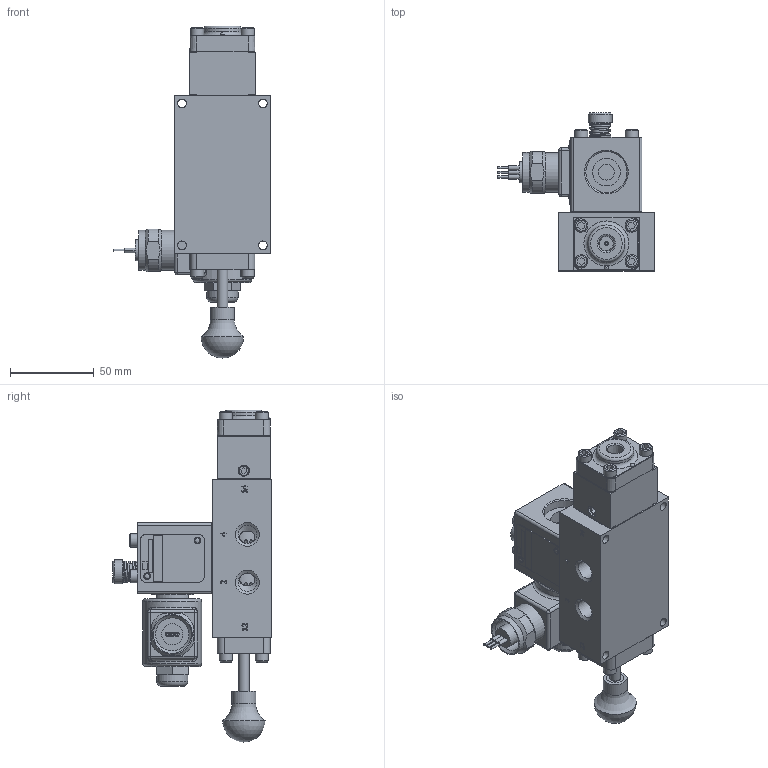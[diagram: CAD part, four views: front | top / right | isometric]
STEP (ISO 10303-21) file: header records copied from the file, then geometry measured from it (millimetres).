
FILE_DESCRIPTION(/* description */ (''),/* implementation_level */ '2;1');
FILE_NAME(/* name */ 'SR2MOLOSQ.stp',/* time_stamp */ '2025-03-03T15:50:27-05:00',/* author */ ('rmckenna'),/* organization */ (''),/* preprocessor_version */ 'ST-DEVELOPER v20',/* originating_system */ 'Autodesk Inventor 2024',/* authorisation */ '');
FILE_SCHEMA (('AUTOMOTIVE_DESIGN { 1 0 10303 214 3 1 1 }'));
Products named in the file (1): Part34
Bounding box: 93.56 x 94.76 x 198.73 mm (x, y, z)
Volume: 358122.8 mm3; surface area: 105369.6 mm2
Topology: 2 solids, 38 shells, 1657 faces, 3969 edges, 2535 vertices
Faces by surface type: plane 764, cylinder 334, cone 300, bspline 139, torus 112, sphere 8
Full cylindrical faces by diameter (mm): 1.016 x1, 1.346 x3, 2.07 x2, 2.261 x2, 2.35 x1, 2.362 x2, 2.381 x3, 2.718 x1, 2.769 x1, 2.778 x2, 3.048 x4, 3.175 x4, 3.302 x2, 3.683 x12, 3.912 x1, 3.962 x1, 4.366 x8, 4.826 x16, 4.978 x2, 5.105 x4, 5.156 x16, 5.159 x9, 5.537 x5, 5.944 x1, 6.35 x2, 6.629 x2, 7.671 x1, 7.938 x12, 7.95 x1, 9.474 x5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
Entity records: 56404 total; most frequent: CARTESIAN_POINT 16728, ORIENTED_EDGE 7874, DIRECTION 7552, EDGE_CURVE 3937, AXIS2_PLACEMENT_3D 2765, VERTEX_POINT 2535, LINE 2022, VECTOR 2022
